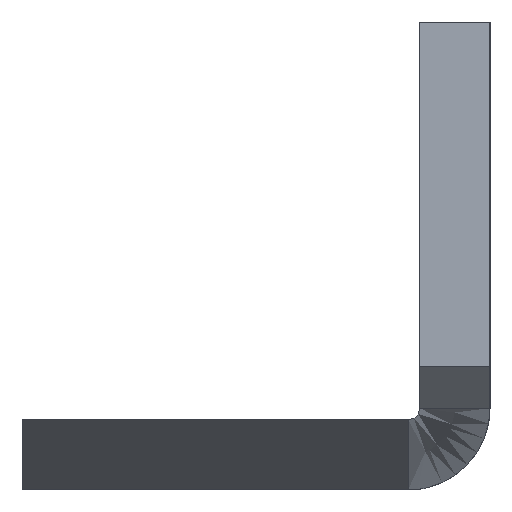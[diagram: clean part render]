
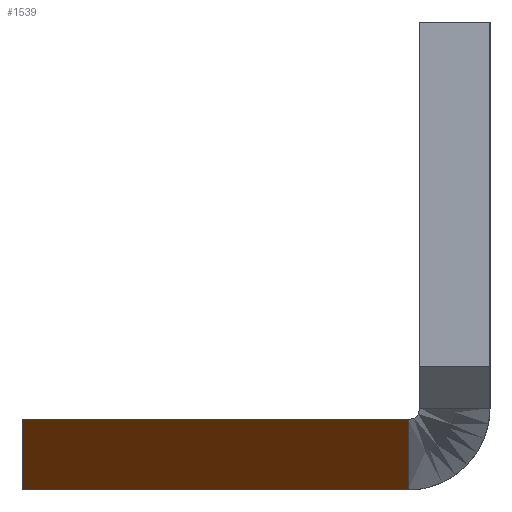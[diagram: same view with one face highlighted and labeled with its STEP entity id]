
A CAD part, left-side view. The second image highlights one B-rep face of the part: STEP entity #1539.
In plain terms, the highlighted planar face has unit normal (-0.447, 0.894, 0).
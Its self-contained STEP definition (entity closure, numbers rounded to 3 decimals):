
#37 = AXIS2_PLACEMENT_3D ( 'NONE', #1526, #969, #2361 ) ;
#262 = VECTOR ( 'NONE', #2077, 1000. ) ;
#349 = ORIENTED_EDGE ( 'NONE', *, *, #1076, .T. ) ;
#409 = LINE ( 'NONE', #1236, #3168 ) ;
#536 = VERTEX_POINT ( 'NONE', #3244 ) ;
#612 = CARTESIAN_POINT ( 'NONE',  ( -443., 0.5, -20. ) ) ;
#635 = DIRECTION ( 'NONE',  ( -0.894, -0.447, 0. ) ) ;
#746 = FACE_OUTER_BOUND ( 'NONE', #1786, .T. ) ;
#747 = LINE ( 'NONE', #3147, #3070 ) ;
#969 = DIRECTION ( 'NONE',  ( -0.447, 0.894, 0. ) ) ;
#1076 = EDGE_CURVE ( 'NONE', #2534, #1416, #409, .T. ) ;
#1178 = ORIENTED_EDGE ( 'NONE', *, *, #2241, .F. ) ;
#1236 = CARTESIAN_POINT ( 'NONE',  ( -450., -3., -20. ) ) ;
#1416 = VERTEX_POINT ( 'NONE', #612 ) ;
#1488 = ORIENTED_EDGE ( 'NONE', *, *, #2701, .F. ) ;
#1526 = CARTESIAN_POINT ( 'NONE',  ( -450., -3., -20. ) ) ;
#1539 = ADVANCED_FACE ( 'NONE', ( #746 ), #2374, .T. ) ;
#1786 = EDGE_LOOP ( 'NONE', ( #2079, #1488, #1178, #349 ) ) ;
#1797 = CARTESIAN_POINT ( 'NONE',  ( -443., 0.5, -17. ) ) ;
#2027 = CARTESIAN_POINT ( 'NONE',  ( -410., 17., -20. ) ) ;
#2077 = DIRECTION ( 'NONE',  ( 0., 0., 1. ) ) ;
#2079 = ORIENTED_EDGE ( 'NONE', *, *, #2271, .F. ) ;
#2241 = EDGE_CURVE ( 'NONE', #2534, #536, #2590, .T. ) ;
#2271 = EDGE_CURVE ( 'NONE', #2527, #1416, #2689, .T. ) ;
#2346 = DIRECTION ( 'NONE',  ( -0.894, -0.447, 0. ) ) ;
#2361 = DIRECTION ( 'NONE',  ( -0.894, -0.447, 0. ) ) ;
#2374 = PLANE ( 'NONE',  #37 ) ;
#2378 = CARTESIAN_POINT ( 'NONE',  ( -443., 0.5, -20. ) ) ;
#2527 = VERTEX_POINT ( 'NONE', #3357 ) ;
#2534 = VERTEX_POINT ( 'NONE', #2027 ) ;
#2590 = LINE ( 'NONE', #3186, #262 ) ;
#2689 = B_SPLINE_CURVE_WITH_KNOTS ( 'NONE', 1,
 ( #1797, #2378 ),
 .UNSPECIFIED., .F., .F.,
 ( 2, 2 ),
 ( 0., 1. ),
 .UNSPECIFIED. ) ;
#2701 = EDGE_CURVE ( 'NONE', #536, #2527, #747, .T. ) ;
#3070 = VECTOR ( 'NONE', #2346, 1000. ) ;
#3147 = CARTESIAN_POINT ( 'NONE',  ( -450., -3., -17. ) ) ;
#3168 = VECTOR ( 'NONE', #635, 1000. ) ;
#3186 = CARTESIAN_POINT ( 'NONE',  ( -410., 17., -20. ) ) ;
#3244 = CARTESIAN_POINT ( 'NONE',  ( -410., 17., -17. ) ) ;
#3357 = CARTESIAN_POINT ( 'NONE',  ( -443., 0.5, -17. ) ) ;
